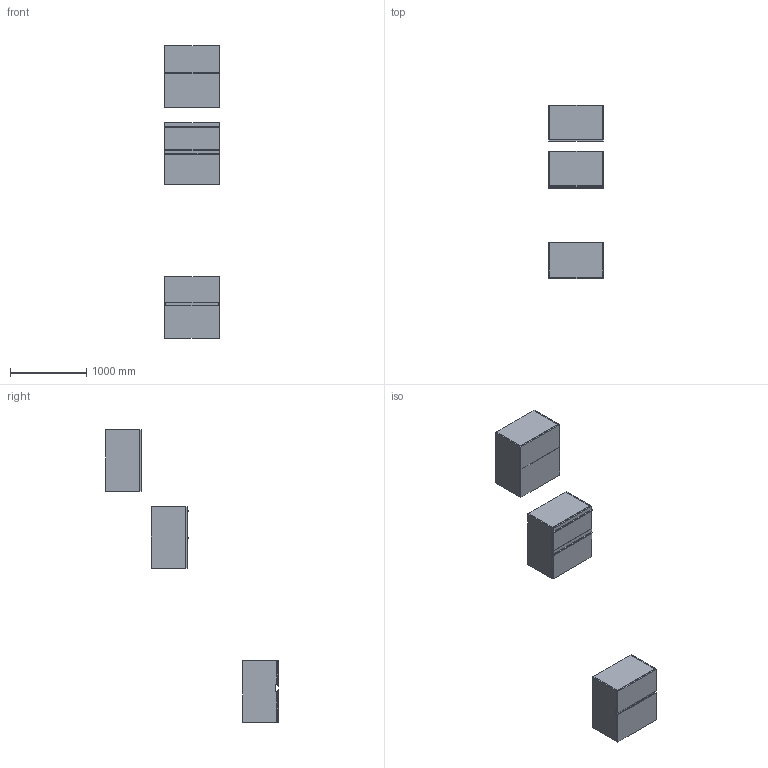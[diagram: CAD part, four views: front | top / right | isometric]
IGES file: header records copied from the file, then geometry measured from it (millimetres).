
Start section: Data from Parasolid IGES Translator 19.0.9, Copyright(c) 2006 Siemens PL M Software. All Rights Reserved.
Global section: file name: noorth-SI-H 81,2 D 47 W 72_8709.igs; native system: By Siemens PLM Incorporated; preprocessor: XPlus GENERIC/IGES 19.0.9; author: Noname; organization: Noname; date: 20200601.134303; units: metre
Bounding box: 720 x 2270 x 3842 mm (x, y, z)
Volume: 102269504.8 mm3; surface area: 15731263.3 mm2
Topology: 24 solids, 24 shells, 248 faces, 544 edges, 324 vertices
Faces by surface type: plane 164, extrusion 36, bspline 32, cylinder 16
